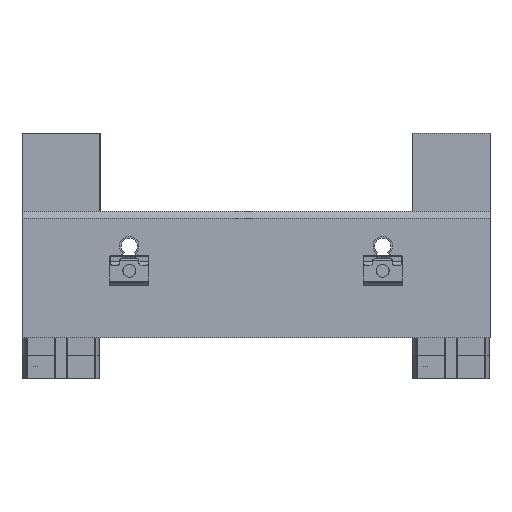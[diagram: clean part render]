
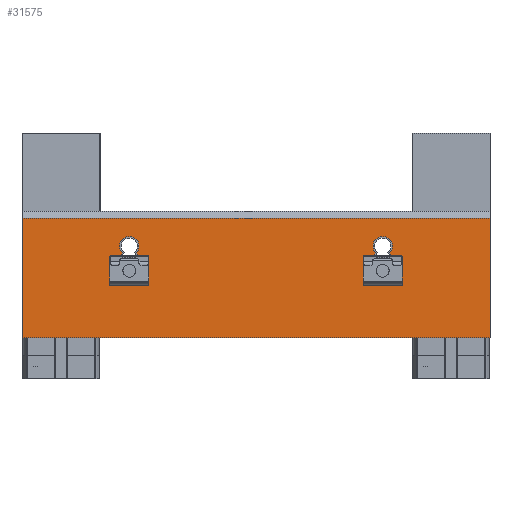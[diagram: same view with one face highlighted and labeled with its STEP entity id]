
A CAD part, left-side view. The second image highlights one B-rep face of the part: STEP entity #31575.
In plain terms, the highlighted planar face has unit normal (-1, 0, 0).
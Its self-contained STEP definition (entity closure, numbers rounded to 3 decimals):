
#1407=FACE_BOUND('',#6230,.T.);
#1408=FACE_BOUND('',#6231,.T.);
#1927=CIRCLE('',#33083,5.);
#1941=CIRCLE('',#33101,5.);
#2457=CIRCLE('',#34147,5.);
#2458=CIRCLE('',#34148,5.);
#2459=CIRCLE('',#34149,5.);
#2460=CIRCLE('',#34150,5.);
#2461=CIRCLE('',#34151,5.);
#2462=CIRCLE('',#34152,5.);
#4109=FACE_OUTER_BOUND('',#6229,.T.);
#6229=EDGE_LOOP('',(#23074,#23075,#23076,#23077));
#6230=EDGE_LOOP('',(#23078,#23079,#23080,#23081));
#6231=EDGE_LOOP('',(#23082,#23083,#23084,#23085));
#8615=LINE('',#49771,#10929);
#8617=LINE('',#49775,#10931);
#8618=LINE('',#49777,#10932);
#8619=LINE('',#49778,#10933);
#10929=VECTOR('',#40176,240.);
#10931=VECTOR('',#40180,61.3);
#10932=VECTOR('',#40181,240.);
#10933=VECTOR('',#40182,61.3);
#12633=VERTEX_POINT('',#46778);
#12635=VERTEX_POINT('',#46781);
#12647=VERTEX_POINT('',#46812);
#12648=VERTEX_POINT('',#46814);
#13575=VERTEX_POINT('',#49768);
#13576=VERTEX_POINT('',#49770);
#13577=VERTEX_POINT('',#49774);
#13578=VERTEX_POINT('',#49776);
#13579=VERTEX_POINT('',#49779);
#13580=VERTEX_POINT('',#49781);
#13581=VERTEX_POINT('',#49784);
#13582=VERTEX_POINT('',#49786);
#15774=EDGE_CURVE('',#12635,#12633,#1927,.T.);
#15790=EDGE_CURVE('',#12648,#12647,#1941,.T.);
#17097=EDGE_CURVE('',#13576,#13575,#8615,.T.);
#17099=EDGE_CURVE('',#13575,#13577,#8617,.T.);
#17100=EDGE_CURVE('',#13578,#13577,#8618,.T.);
#17101=EDGE_CURVE('',#13578,#13576,#8619,.T.);
#17102=EDGE_CURVE('',#12647,#13579,#2457,.T.);
#17103=EDGE_CURVE('',#13579,#13580,#2458,.T.);
#17104=EDGE_CURVE('',#13580,#12648,#2459,.T.);
#17105=EDGE_CURVE('',#12633,#13581,#2460,.T.);
#17106=EDGE_CURVE('',#13581,#13582,#2461,.T.);
#17107=EDGE_CURVE('',#13582,#12635,#2462,.T.);
#23074=ORIENTED_EDGE('',*,*,#17097,.T.);
#23075=ORIENTED_EDGE('',*,*,#17099,.T.);
#23076=ORIENTED_EDGE('',*,*,#17100,.F.);
#23077=ORIENTED_EDGE('',*,*,#17101,.T.);
#23078=ORIENTED_EDGE('',*,*,#15790,.T.);
#23079=ORIENTED_EDGE('',*,*,#17102,.T.);
#23080=ORIENTED_EDGE('',*,*,#17103,.T.);
#23081=ORIENTED_EDGE('',*,*,#17104,.T.);
#23082=ORIENTED_EDGE('',*,*,#15774,.T.);
#23083=ORIENTED_EDGE('',*,*,#17105,.T.);
#23084=ORIENTED_EDGE('',*,*,#17106,.T.);
#23085=ORIENTED_EDGE('',*,*,#17107,.T.);
#28295=PLANE('',#34146);
#31575=ADVANCED_FACE('',(#4109,#1407,#1408),#28295,.T.);
#33083=AXIS2_PLACEMENT_3D('',#46782,#37353,#37354);
#33101=AXIS2_PLACEMENT_3D('',#46815,#37391,#37392);
#34146=AXIS2_PLACEMENT_3D('',#49773,#40178,#40179);
#34147=AXIS2_PLACEMENT_3D('',#49780,#40183,#40184);
#34148=AXIS2_PLACEMENT_3D('',#49782,#40185,#40186);
#34149=AXIS2_PLACEMENT_3D('',#49783,#40187,#40188);
#34150=AXIS2_PLACEMENT_3D('',#49785,#40189,#40190);
#34151=AXIS2_PLACEMENT_3D('',#49787,#40191,#40192);
#34152=AXIS2_PLACEMENT_3D('',#49788,#40193,#40194);
#37353=DIRECTION('center_axis',(1.,0.,0.));
#37354=DIRECTION('ref_axis',(0.,0.,-1.));
#37391=DIRECTION('center_axis',(1.,0.,0.));
#37392=DIRECTION('ref_axis',(0.,0.,-1.));
#40176=DIRECTION('',(0.,-1.,0.));
#40178=DIRECTION('center_axis',(-1.,0.,0.));
#40179=DIRECTION('ref_axis',(0.,1.,0.));
#40180=DIRECTION('',(0.,0.,1.));
#40181=DIRECTION('',(0.,-1.,0.));
#40182=DIRECTION('',(0.,0.,-1.));
#40183=DIRECTION('center_axis',(1.,0.,0.));
#40184=DIRECTION('ref_axis',(0.,0.,-1.));
#40185=DIRECTION('center_axis',(1.,0.,0.));
#40186=DIRECTION('ref_axis',(0.,0.,-1.));
#40187=DIRECTION('center_axis',(1.,0.,0.));
#40188=DIRECTION('ref_axis',(0.,0.,-1.));
#40189=DIRECTION('center_axis',(1.,0.,0.));
#40190=DIRECTION('ref_axis',(0.,0.,-1.));
#40191=DIRECTION('center_axis',(1.,0.,0.));
#40192=DIRECTION('ref_axis',(0.,0.,-1.));
#40193=DIRECTION('center_axis',(1.,0.,0.));
#40194=DIRECTION('ref_axis',(0.,0.,-1.));
#46778=CARTESIAN_POINT('',(-150.,69.073,2.9));
#46781=CARTESIAN_POINT('',(-150.,60.927,2.9));
#46782=CARTESIAN_POINT('Origin',(-150.,65.,0.));
#46812=CARTESIAN_POINT('',(-150.,-60.927,2.9));
#46814=CARTESIAN_POINT('',(-150.,-69.073,2.9));
#46815=CARTESIAN_POINT('Origin',(-150.,-65.,0.));
#49768=CARTESIAN_POINT('',(-150.,-120.,-34.4));
#49770=CARTESIAN_POINT('',(-150.,120.,-34.4));
#49771=CARTESIAN_POINT('',(-150.,0.,-34.4));
#49773=CARTESIAN_POINT('Origin',(-150.,0.,-49.4));
#49774=CARTESIAN_POINT('',(-150.,-120.,26.9));
#49775=CARTESIAN_POINT('',(-150.,-120.,30.6));
#49776=CARTESIAN_POINT('',(-150.,120.,26.9));
#49777=CARTESIAN_POINT('',(-150.,0.,26.9));
#49778=CARTESIAN_POINT('',(-150.,120.,30.6));
#49779=CARTESIAN_POINT('',(-150.,-61.334,9.2));
#49780=CARTESIAN_POINT('Origin',(-150.,-65.,5.8));
#49781=CARTESIAN_POINT('',(-150.,-68.666,9.2));
#49782=CARTESIAN_POINT('Origin',(-150.,-65.,12.6));
#49783=CARTESIAN_POINT('Origin',(-150.,-65.,5.8));
#49784=CARTESIAN_POINT('',(-150.,68.666,9.2));
#49785=CARTESIAN_POINT('Origin',(-150.,65.,5.8));
#49786=CARTESIAN_POINT('',(-150.,61.334,9.2));
#49787=CARTESIAN_POINT('Origin',(-150.,65.,12.6));
#49788=CARTESIAN_POINT('Origin',(-150.,65.,5.8));
